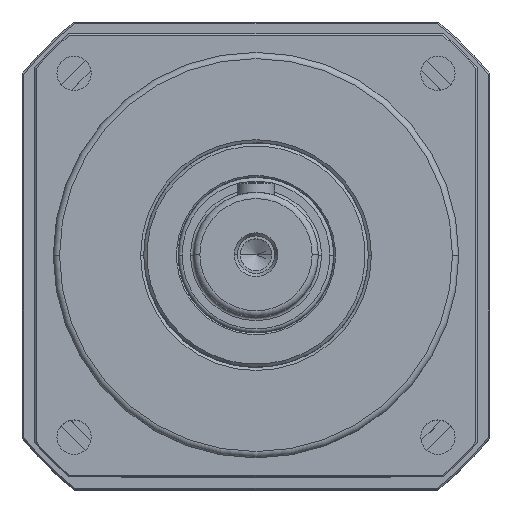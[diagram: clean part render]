
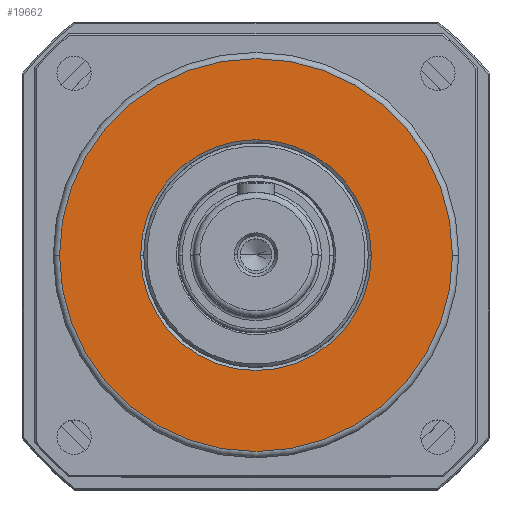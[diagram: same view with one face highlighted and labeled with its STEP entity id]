
A CAD part, top view. The second image highlights one B-rep face of the part: STEP entity #19662.
In plain terms, the highlighted planar face has unit normal (0, 0, 1).
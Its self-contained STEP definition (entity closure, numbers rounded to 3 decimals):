
#616 = CARTESIAN_POINT ( 'NONE',  ( 0., 0., 15. ) ) ;
#1577 = EDGE_LOOP ( 'NONE', ( #21447, #12341 ) ) ;
#2442 = EDGE_CURVE ( 'NONE', #2616, #4832, #12233, .T. ) ;
#2616 = VERTEX_POINT ( 'NONE', #8578 ) ;
#2673 = DIRECTION ( 'NONE',  ( 0., 0., 1. ) ) ;
#4351 = FACE_BOUND ( 'NONE', #1577, .T. ) ;
#4832 = VERTEX_POINT ( 'NONE', #4934 ) ;
#4934 = CARTESIAN_POINT ( 'NONE',  ( 37., 0., 15. ) ) ;
#5310 = DIRECTION ( 'NONE',  ( 1., 0., 0. ) ) ;
#5419 = AXIS2_PLACEMENT_3D ( 'NONE', #16483, #27054, #12222 ) ;
#5830 = DIRECTION ( 'NONE',  ( 0., 0., -1. ) ) ;
#6933 = AXIS2_PLACEMENT_3D ( 'NONE', #16286, #5830, #22595 ) ;
#7114 = CARTESIAN_POINT ( 'NONE',  ( 0., 0., 15. ) ) ;
#7269 = DIRECTION ( 'NONE',  ( 1., 0., 0. ) ) ;
#7280 = ORIENTED_EDGE ( 'NONE', *, *, #23326, .T. ) ;
#8578 = CARTESIAN_POINT ( 'NONE',  ( -37., 0., 15. ) ) ;
#9496 = CIRCLE ( 'NONE', #24848, 63. ) ;
#10069 = EDGE_LOOP ( 'NONE', ( #11497, #7280 ) ) ;
#10888 = CARTESIAN_POINT ( 'NONE',  ( 63., 0., 15. ) ) ;
#11497 = ORIENTED_EDGE ( 'NONE', *, *, #17962, .T. ) ;
#12222 = DIRECTION ( 'NONE',  ( 1., 0., 0. ) ) ;
#12233 = CIRCLE ( 'NONE', #6933, 37. ) ;
#12341 = ORIENTED_EDGE ( 'NONE', *, *, #2442, .T. ) ;
#13459 = VERTEX_POINT ( 'NONE', #10888 ) ;
#14924 = PLANE ( 'NONE',  #25393 ) ;
#16286 = CARTESIAN_POINT ( 'NONE',  ( 0., 0., 15. ) ) ;
#16483 = CARTESIAN_POINT ( 'NONE',  ( 0., 0., 15. ) ) ;
#17962 = EDGE_CURVE ( 'NONE', #13459, #18699, #9496, .T. ) ;
#18699 = VERTEX_POINT ( 'NONE', #24922 ) ;
#19394 = AXIS2_PLACEMENT_3D ( 'NONE', #24124, #20136, #5310 ) ;
#19662 = ADVANCED_FACE ( 'NONE', ( #4351, #21495 ), #14924, .T. ) ;
#19891 = DIRECTION ( 'NONE',  ( 0., 0., 1. ) ) ;
#20136 = DIRECTION ( 'NONE',  ( 0., 0., 1. ) ) ;
#21447 = ORIENTED_EDGE ( 'NONE', *, *, #25447, .T. ) ;
#21495 = FACE_OUTER_BOUND ( 'NONE', #10069, .T. ) ;
#22595 = DIRECTION ( 'NONE',  ( 1., 0., 0. ) ) ;
#23326 = EDGE_CURVE ( 'NONE', #18699, #13459, #26425, .T. ) ;
#24124 = CARTESIAN_POINT ( 'NONE',  ( 0., 0., 15. ) ) ;
#24848 = AXIS2_PLACEMENT_3D ( 'NONE', #7114, #19891, #7269 ) ;
#24922 = CARTESIAN_POINT ( 'NONE',  ( -63., 0., 15. ) ) ;
#25209 = CIRCLE ( 'NONE', #5419, 37. ) ;
#25393 = AXIS2_PLACEMENT_3D ( 'NONE', #616, #2673, #25754 ) ;
#25447 = EDGE_CURVE ( 'NONE', #4832, #2616, #25209, .T. ) ;
#25754 = DIRECTION ( 'NONE',  ( 1., 0., 0. ) ) ;
#26425 = CIRCLE ( 'NONE', #19394, 63. ) ;
#27054 = DIRECTION ( 'NONE',  ( 0., 0., -1. ) ) ;
